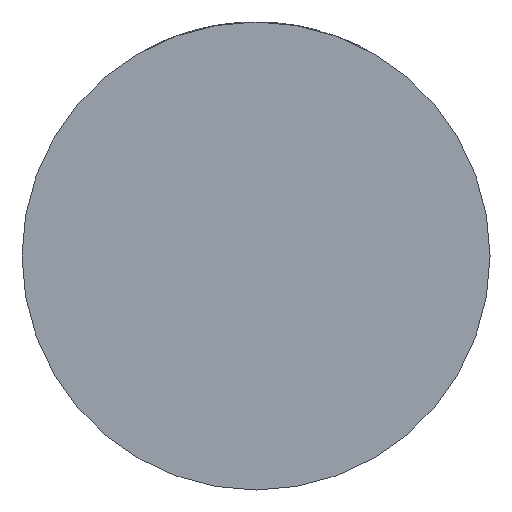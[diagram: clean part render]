
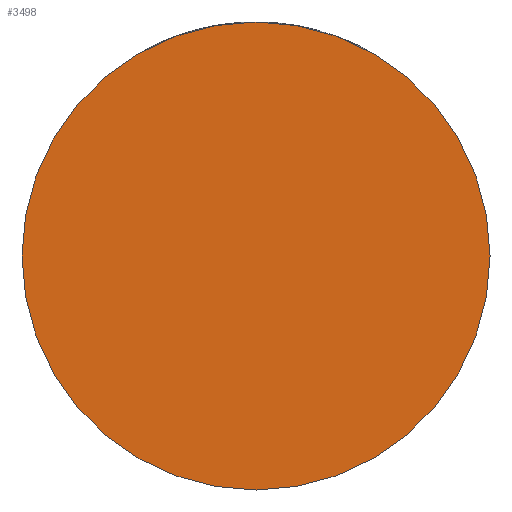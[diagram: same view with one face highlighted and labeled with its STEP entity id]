
A CAD part, front view. The second image highlights one B-rep face of the part: STEP entity #3498.
In plain terms, the highlighted planar face has unit normal (0, -1, 0).
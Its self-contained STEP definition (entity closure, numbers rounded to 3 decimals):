
#133 = CARTESIAN_POINT ( 'NONE',  ( 0., -39., 0. ) ) ;
#304 = EDGE_CURVE ( 'NONE', #1036, #1167, #4377, .T. ) ;
#358 = FACE_OUTER_BOUND ( 'NONE', #1913, .T. ) ;
#372 = ORIENTED_EDGE ( 'NONE', *, *, #304, .T. ) ;
#1036 = VERTEX_POINT ( 'NONE', #2813 ) ;
#1096 = DIRECTION ( 'NONE',  ( 1., 0., 0. ) ) ;
#1167 = VERTEX_POINT ( 'NONE', #1170 ) ;
#1170 = CARTESIAN_POINT ( 'NONE',  ( -39., -39., 0. ) ) ;
#1547 = AXIS2_PLACEMENT_3D ( 'NONE', #2258, #3286, #1096 ) ;
#1570 = ORIENTED_EDGE ( 'NONE', *, *, #1701, .T. ) ;
#1617 = CARTESIAN_POINT ( 'NONE',  ( 0., -39., 0. ) ) ;
#1701 = EDGE_CURVE ( 'NONE', #1167, #1036, #2263, .T. ) ;
#1865 = DIRECTION ( 'NONE',  ( 0., -1., 0. ) ) ;
#1913 = EDGE_LOOP ( 'NONE', ( #1570, #372 ) ) ;
#2229 = PLANE ( 'NONE',  #1547 ) ;
#2258 = CARTESIAN_POINT ( 'NONE',  ( 0., -39., 0. ) ) ;
#2263 = CIRCLE ( 'NONE', #2994, 39. ) ;
#2415 = DIRECTION ( 'NONE',  ( 0., -1., 0. ) ) ;
#2813 = CARTESIAN_POINT ( 'NONE',  ( 39., -39., 0. ) ) ;
#2925 = DIRECTION ( 'NONE',  ( 1., 0., 0. ) ) ;
#2994 = AXIS2_PLACEMENT_3D ( 'NONE', #1617, #2415, #4427 ) ;
#3286 = DIRECTION ( 'NONE',  ( 0., -1., 0. ) ) ;
#3498 = ADVANCED_FACE ( 'NONE', ( #358 ), #2229, .T. ) ;
#3778 = AXIS2_PLACEMENT_3D ( 'NONE', #133, #1865, #2925 ) ;
#4377 = CIRCLE ( 'NONE', #3778, 39. ) ;
#4427 = DIRECTION ( 'NONE',  ( 1., 0., 0. ) ) ;
